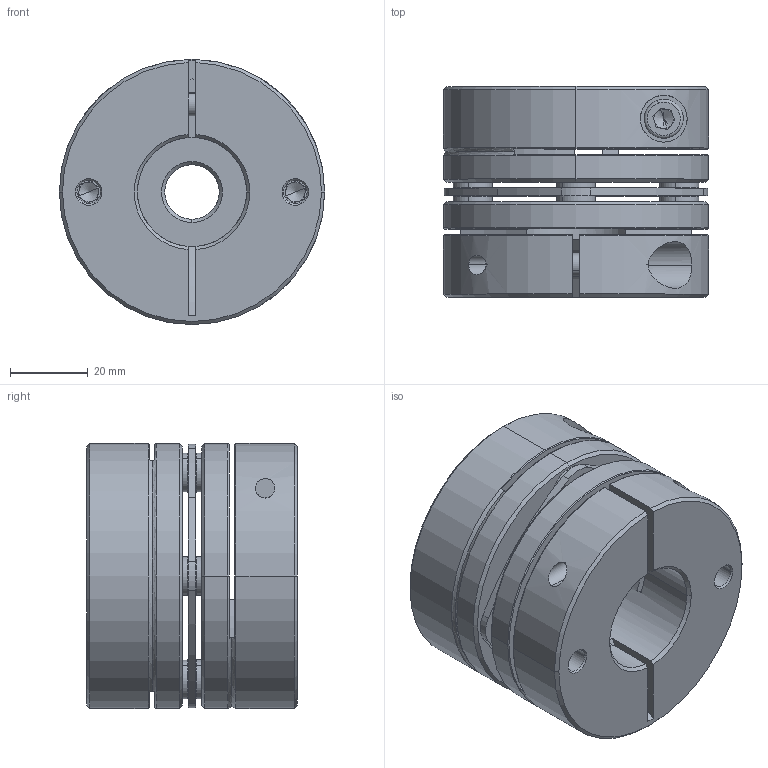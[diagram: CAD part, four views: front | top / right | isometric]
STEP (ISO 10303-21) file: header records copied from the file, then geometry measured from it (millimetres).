
FILE_DESCRIPTION (( 'STEP AP203' ), '1' );
FILE_NAME ('LD1-D68-14-28.STEP', '2021-10-26T07:47:12', ( '' ), ( '' ), 'SwSTEP 2.0', 'SolidWorks 2018', '' );
FILE_SCHEMA (( 'CONFIG_CONTROL_DESIGN' ));
Length unit declared in the file: millimetre
Products named in the file (2): LD1-D68-14-28; 錨璃101^LD1-D68
Assembly tree (1 placements, depth 2):
  LD1-D68-14-28
    錨璃101^LD1-D68
Bounding box: 68 x 54 x 68 mm (x, y, z)
Volume: 147760.1 mm3; surface area: 46493.6 mm2
Topology: 1 solids, 15 shells, 443 faces, 1063 edges, 652 vertices
Faces by surface type: cylinder 161, plane 138, cone 122, torus 22
Entity records: 13477 total; most frequent: CARTESIAN_POINT 2615, DIRECTION 2435, ORIENTED_EDGE 2094, EDGE_CURVE 1047, AXIS2_PLACEMENT_3D 988, VERTEX_POINT 652, CIRCLE 541, EDGE_LOOP 523
